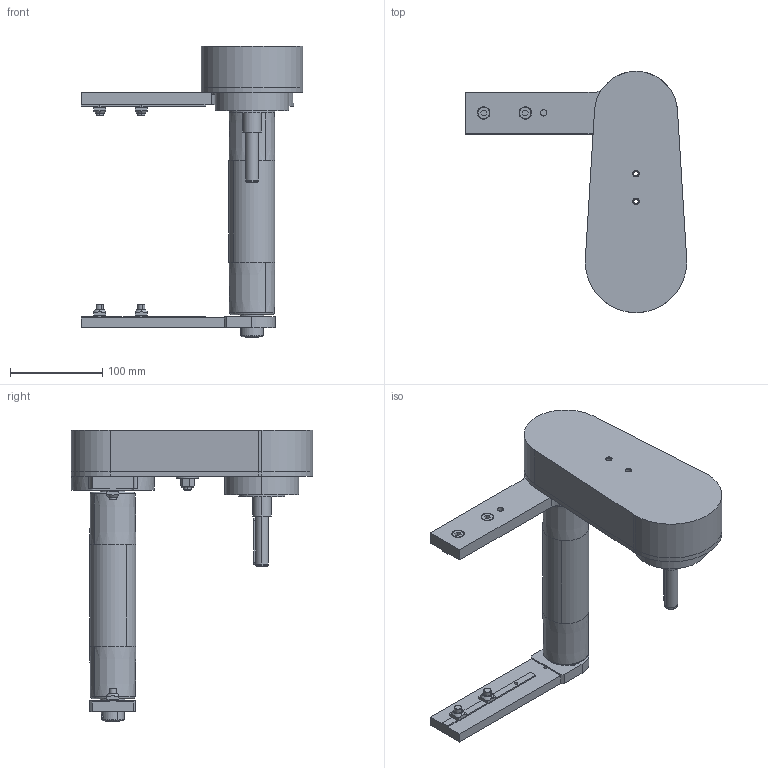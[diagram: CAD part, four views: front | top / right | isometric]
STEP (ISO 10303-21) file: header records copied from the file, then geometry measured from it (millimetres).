
FILE_DESCRIPTION (( 'STEP AP203' ), '1' );
FILE_NAME ('084.050.KTB.30.200.STEP', '2019-07-29T13:28:49', ( '' ), ( '' ), 'SwSTEP 2.0', 'SolidWorks 2018', '' );
FILE_SCHEMA (( 'CONFIG_CONTROL_DESIGN' ));
Length unit declared in the file: millimetre
Products named in the file (25): 084.809.004; 084.809.003; 084.302.000 DADI ALUSIC 13x13_084.302.004; 084.809.001; 084.807.001_084.807.001; 084.811.004; 084.810.008; CHIAVETTE_A 5x5x50 UNI 6604-69; 084.301.000 VITI ALUSIC_084.301.003; Circlip DIN 471 - 8 x 0.8_Circlip DIN 471 - 8 x 0.8; 084.802.034_084.802.034; 084.815.103_Default<A macchina>; 084.821.003; 084.813.001; 084.807.002_084.807.002; RONDELLE FASCIA LARGA UNI 6593_8.4x24 UNI 6593; 084.821.002; 084.802.017_084.802.017; 084.810.006; DADI ESAGONALI AUTOBLOCCANTI UNI 7473_M8 UNI 7473; CUSCINETTI A SFERE_608-2RS; 084.810.001; 084.813.006; 084.050.KTB.30.200; 084.802.021
Assembly tree (34 placements, depth 3):
  084.050.KTB.30.200
    084.811.004
    084.813.001
    084.810.001  x2
    084.802.034_084.802.034
    084.802.017_084.802.017
    084.807.001_084.807.001
    084.807.002_084.807.002
    084.809.004
    084.813.006
    084.802.021
    084.809.001
    084.809.003
    084.301.000 VITI ALUSIC_084.301.003  x4
    084.302.000 DADI ALUSIC 13x13_084.302.004  x4
    CHIAVETTE_A 5x5x50 UNI 6604-69
    084.821.002  x2
    084.810.006
      084.810.008
      CUSCINETTI A SFERE_608-2RS  x3
      Circlip DIN 471 - 8 x 0.8_Circlip DIN 471 - 8 x 0.8
      RONDELLE FASCIA LARGA UNI 6593_8.4x24 UNI 6593
      DADI ESAGONALI AUTOBLOCCANTI UNI 7473_M8 UNI 7473
    084.821.003
    084.815.103_Default<A macchina>
Bounding box: 240 x 261.5 x 316 mm (x, y, z)
Volume: 920386.1 mm3; surface area: 475250.7 mm2
Topology: 38 solids, 39 shells, 1492 faces, 3919 edges, 2557 vertices
Faces by surface type: plane 661, cylinder 604, cone 112, torus 106, sphere 9
Entity records: 38513 total; most frequent: CARTESIAN_POINT 6989, DIRECTION 6282, ORIENTED_EDGE 5820, EDGE_CURVE 2910, AXIS2_PLACEMENT_3D 2319, VERTEX_POINT 1900, LINE 1644, VECTOR 1644
